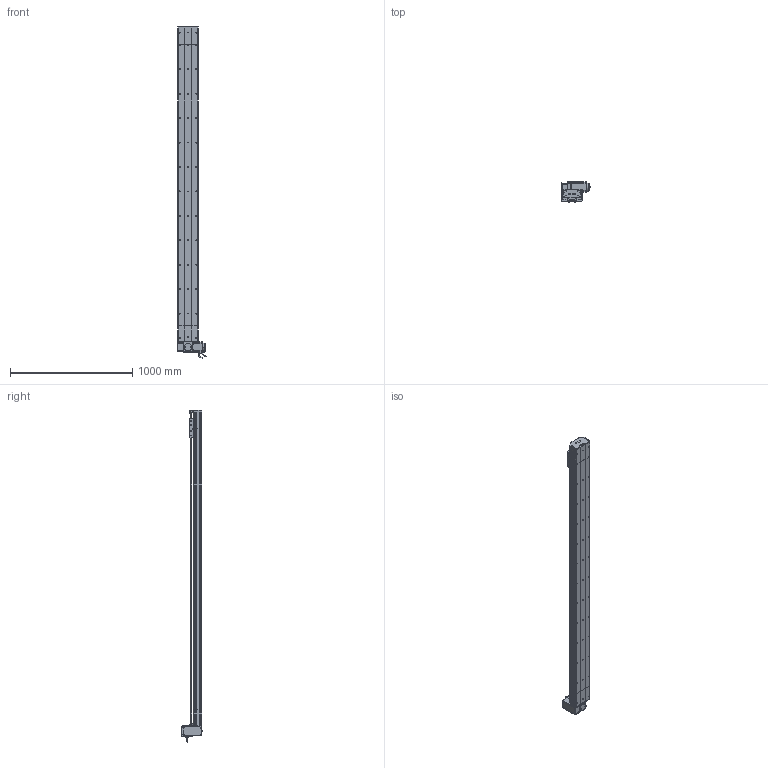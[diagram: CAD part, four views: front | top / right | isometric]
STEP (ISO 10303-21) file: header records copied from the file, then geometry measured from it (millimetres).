
FILE_DESCRIPTION (( 'STEP AP214' ), '1' );
FILE_NAME ('D17 TBH RT S2300.STEP', '2010-06-30T08:37:17', ( 'Christophe Gaillard' ), ( 'SGA' ), 'SwSTEP 2.0', 'SolidWorks 2010', '' );
FILE_SCHEMA (( 'AUTOMOTIVE_DESIGN' ));
Length unit declared in the file: millimetre
Products named in the file (40): vis M5 L16_Default; poulie head_Default; Plaque racord D17_Default; vis M5 L70_Default; corps 90BLDC125A-640; avant 90BLDC125A-640; Moteur motionking 90BLDC125A-640; Conecteur_Default; Conecteur2_Default; codeur 90BLDC125-640; couroie head D17_Default; Chariot D17; chariot D17S_Default; vis M5 L25_Default; vis M5 L12_Default; guide D17; vis M5 L8 90°_Default; couvercle D17B_Default; Couroie tail D17B_Default; poulie tail_Default; plaque de  bout tail D17B_Default; Tail D17B+100_Default; Renvoi RT_Default; cache arbre D17_Default; Rail D17B; tete d''axe poulie D17B; corp tail D17B+100_Default; Vis M5 L16-2_Default; Couroie+ rail D17 Course 2300 ; course 2300 D17B_Default; D17 TBH RT S2300; Head RT D17B_Default; couvercle D17B course L2300_Default; corp D17B 2300_Default; plaque de  bout head D17B RT_Default; couvercle D17B head_Default; corpl head D17 _Default; vis M5 L5_Default; cache D17_Default; Arbre+rail head D17B
Assembly tree (70 placements, depth 4):
  D17 TBH RT S2300
    course 2300 D17B_Default
      Couroie+ rail D17 Course 2300 
      corp D17B 2300_Default
      couvercle D17B course L2300_Default
    Tail D17B+100_Default
      vis M5 L12_Default  x4
      tete d''axe poulie D17B
      vis M5 L8 90°_Default  x2
      Couroie tail D17B_Default
      poulie tail_Default
      vis M5 L25_Default  x2
      plaque de  bout tail D17B_Default
      couvercle D17B_Default
      corp tail D17B+100_Default
      Rail D17B
    chariot D17S_Default
      guide D17  x2
      vis M5 L12_Default  x4
      Chariot D17
    Head RT D17B_Default
      vis M5 L12_Default  x8
      vis M5 L5_Default  x4
      Vis M5 L16-2_Default  x4
      vis M5 L70_Default  x4
      couvercle D17B head_Default
      vis M5 L16_Default  x2
      Moteur motionking 90BLDC125A-640
        corps 90BLDC125A-640
        codeur 90BLDC125-640
        Conecteur2_Default
        avant 90BLDC125A-640
        Conecteur_Default
      poulie head_Default
      cache D17_Default  x2
      corpl head D17 _Default
      couroie head D17_Default
      Plaque racord D17_Default
      vis M5 L25_Default  x2
      Renvoi RT_Default
      plaque de  bout head D17B RT_Default
      cache arbre D17_Default
      Arbre+rail head D17B
Bounding box: 245.2 x 166.15 x 2717.95 mm (x, y, z)
Volume: 15839448.9 mm3; surface area: 4573230.7 mm2
Topology: 94 solids, 94 shells, 2741 faces, 6971 edges, 4486 vertices
Faces by surface type: plane 1611, cylinder 817, bspline 136, cone 88, torus 85, sphere 4
Entity records: 86482 total; most frequent: CARTESIAN_POINT 25415, ORIENTED_EDGE 10714, DIRECTION 10150, EDGE_CURVE 5357, LINE 3520, VECTOR 3520, VERTEX_POINT 3510, AXIS2_PLACEMENT_3D 3315
